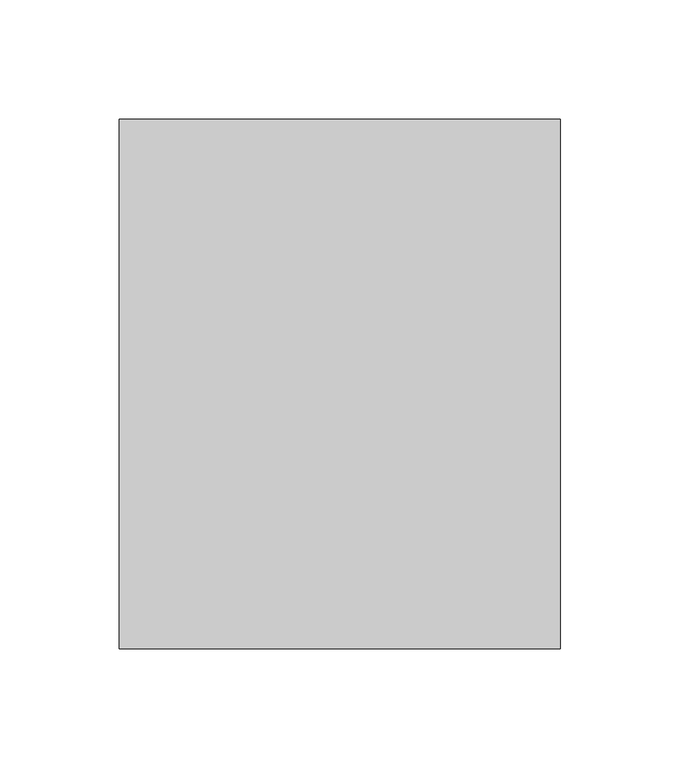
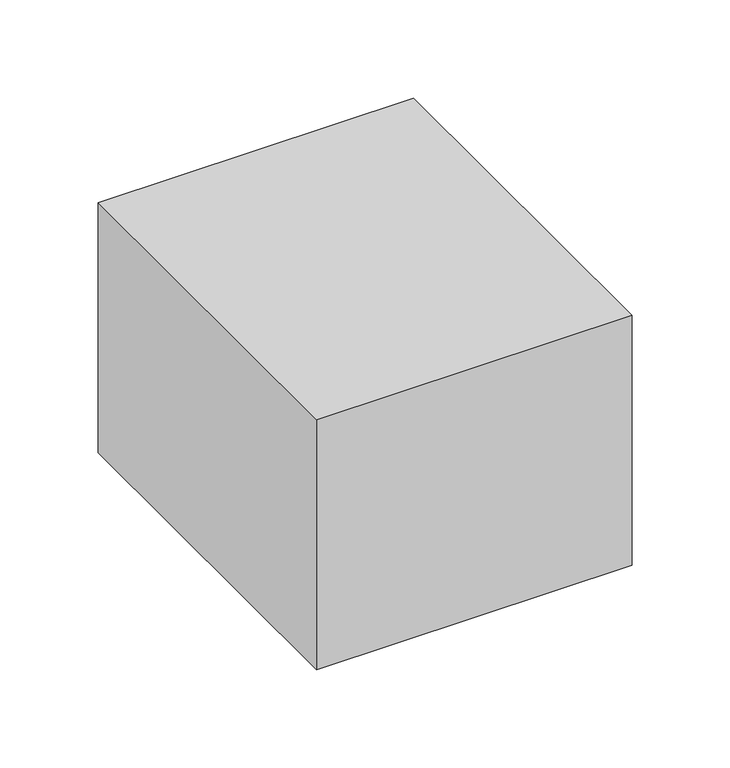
"""IFC4 building model written with IfcOpenShell, lengths in millimetres: light fixture geometry,  213 :  212093."""

import ifcopenshell
import ifcopenshell.guid

model = None  # the IFC model being written
_history = None  # IfcOwnerHistory: only IFC2X3 demands one
_inside = {}  # id of a spatial element -> (the spatial element, [elements in it])
_under = {}  # id of a project, library or spatial element -> (it, [spatial elements below it])
_declared = {}  # id of a project -> (the project, [libraries it declares])
_typed = {}  # id of a type object -> (the type object, [elements of that type])
_made_of = {}  # id of a material, layer set ... -> (it, [elements and type objects made of it])


def new_model(schema):
    """Start an empty IFC model of exactly this schema.

    Asked for "IFC4X3", IfcOpenShell would pick the latest addendum, in which some entities
    have other attributes; the version numbers below select the first issue.
    IFC2X3 requires an IfcOwnerHistory on every rooted entity: one is made here for all.
    """
    global model, _history
    if schema == "IFC4X3":
        model = ifcopenshell.file(schema_version=(4, 3, 0, 0))
    else:
        model = ifcopenshell.file(schema=schema)
    _inside.clear()
    _under.clear()
    _declared.clear()
    _typed.clear()
    _made_of.clear()
    _history = None
    if model.schema == "IFC2X3":
        org = make("IfcOrganization", Name="unknown")
        user = make(
            "IfcPersonAndOrganization",
            ThePerson=make("IfcPerson", FamilyName="unknown"),
            TheOrganization=org,
        )
        app = make(
            "IfcApplication",
            ApplicationDeveloper=org,
            Version="unknown",
            ApplicationFullName="unknown",
            ApplicationIdentifier="unknown",
        )
        _history = make(
            "IfcOwnerHistory",
            OwningUser=user,
            OwningApplication=app,
            ChangeAction="ADDED",
            CreationDate=0,
        )
    return model


def make(cls, **values):
    """One entity of the class cls with the attributes given. An attribute that is None is left unset."""
    return model.create_entity(
        cls, **{name: value for name, value in values.items() if value is not None}
    )


def rooted(cls, **values):
    """An entity with a GlobalId (a new one), such as an element, a storey or a relation."""
    return make(cls, GlobalId=ifcopenshell.guid.new(), OwnerHistory=_history, **values)


def si_unit(unit_type, name, prefix=None):
    """IfcSIUnit, for example si_unit("LENGTHUNIT", "METRE", prefix="MILLI")."""
    return make("IfcSIUnit", UnitType=unit_type, Prefix=prefix, Name=name)


def assignment(units):
    """IfcUnitAssignment: the units of a project."""
    return None if units is None else make("IfcUnitAssignment", Units=units)


def point(xyz):
    """IfcCartesianPoint."""
    return None if xyz is None else make("IfcCartesianPoint", Coordinates=xyz)


def direction(xyz):
    """IfcDirection."""
    return None if xyz is None else make("IfcDirection", DirectionRatios=xyz)


def frame(location, z_axis=None, x_axis=None):
    """IfcAxis2Placement3D, a coordinate frame: its origin and axes. An axis left out is left unset."""
    return make(
        "IfcAxis2Placement3D",
        Location=point(location),
        Axis=direction(z_axis),
        RefDirection=direction(x_axis),
    )


def origin():
    """The frame at (0, 0, 0) with its axes left unset."""
    return frame((0.0, 0.0, 0.0))


def place(relative_to, where):
    """IfcLocalPlacement: puts the frame where relative to a parent placement (None: the world)."""
    return make(
        "IfcLocalPlacement", PlacementRelTo=relative_to, RelativePlacement=where
    )


def context(
    kind, dimensions, precision=None, world=None, true_north=None, identifier=None
):
    """IfcGeometricRepresentationContext, for example the 3D "Model" context."""
    return make(
        "IfcGeometricRepresentationContext",
        ContextIdentifier=identifier,
        ContextType=kind,
        CoordinateSpaceDimension=dimensions,
        Precision=precision,
        WorldCoordinateSystem=world,
        TrueNorth=true_north,
    )


def project(units=None, contexts=None):
    """IfcProject with its units and contexts."""
    return rooted(
        "IfcProject",
        Name="project",
        RepresentationContexts=contexts,
        UnitsInContext=assignment(units),
    )


def spatial(cls, under=None, at=None, **own):
    """A site, building, storey or space (cls), placed at a placement, below another one or the project."""
    s = rooted(cls, ObjectPlacement=at, **own)
    if under is not None:
        _under.setdefault(under.id(), (under, []))[1].append(s)
    return s


def polyline(points):
    """IfcPolyline through the points."""
    return make("IfcPolyline", Points=[point(p) for p in points])


def outline(outer, holes=None, kind="AREA"):
    """IfcArbitraryClosedProfileDef: a profile drawn as a closed curve; with holes, ...WithVoids."""
    if holes is None:
        return make("IfcArbitraryClosedProfileDef", ProfileType=kind, OuterCurve=outer)
    return make(
        "IfcArbitraryProfileDefWithVoids",
        ProfileType=kind,
        OuterCurve=outer,
        InnerCurves=holes,
    )


def extrude(swept, where, along, depth):
    """IfcExtrudedAreaSolid: the profile swept, set in the frame where, extruded along a direction by depth."""
    return make(
        "IfcExtrudedAreaSolid",
        SweptArea=swept,
        Position=where,
        ExtrudedDirection=direction(along),
        Depth=depth,
    )


def shape(context_of_items, identifier, shape_type, items):
    """IfcShapeRepresentation: the items that make up one representation, for example the "Body"."""
    return make(
        "IfcShapeRepresentation",
        ContextOfItems=context_of_items,
        RepresentationIdentifier=identifier,
        RepresentationType=shape_type,
        Items=items,
    )


def source(mapping_origin, context_of_items, identifier, shape_type, items):
    """IfcRepresentationMap: a shape defined once, which mapped items show again and again."""
    return make(
        "IfcRepresentationMap",
        MappingOrigin=mapping_origin,
        MappedRepresentation=shape(context_of_items, identifier, shape_type, items),
    )


def transform(
    local_origin,
    x_axis=None,
    y_axis=None,
    z_axis=None,
    scale=None,
    scale2=None,
    scale3=None,
    uniform=True,
):
    """IfcCartesianTransformationOperator3D, or its non-uniform kind. x_axis, y_axis, z_axis: its Axis1, 2, 3."""
    if uniform:
        return make(
            "IfcCartesianTransformationOperator3D",
            Axis1=direction(x_axis),
            Axis2=direction(y_axis),
            LocalOrigin=point(local_origin),
            Scale=scale,
            Axis3=direction(z_axis),
        )
    return make(
        "IfcCartesianTransformationOperator3DnonUniform",
        Axis1=direction(x_axis),
        Axis2=direction(y_axis),
        LocalOrigin=point(local_origin),
        Scale=scale,
        Axis3=direction(z_axis),
        Scale2=scale2,
        Scale3=scale3,
    )


def mapped(mapping_source, mapping_target):
    """IfcMappedItem: shows the shape of a source again, moved by a transform."""
    return make(
        "IfcMappedItem", MappingSource=mapping_source, MappingTarget=mapping_target
    )


def made_of(thing, what):
    """Note that an element or type object is made of a material, layer set ...; save() writes the relation."""
    if what is not None:
        _made_of.setdefault(what.id(), (what, []))[1].append(thing)
    return thing


def element(
    cls,
    number,
    at=None,
    inside=None,
    cuts=None,
    type_object=None,
    material=None,
    context=None,
    identifier="Body",
    shape_type=None,
    held_by="IfcProductDefinitionShape",
    body=None,
    shapes=None,
    **own,
):
    """One element of the class cls, such as IfcWall. Its Tag is "e" and its number.

    at: its placement. inside: the storey or other place that contains it. cuts: it is an
    opening in that element (IfcRelVoidsElement). A single representation is given by context,
    identifier, shape_type and body (its items); several are given by shapes. held_by: the class
    of the entity that holds the representations. save() writes the other relations.
    """
    e = rooted(cls, Tag="e%d" % number, ObjectPlacement=at, **own)
    if body is not None:
        shapes = [shape(context, identifier, shape_type, body)]
    if shapes is not None:
        e.Representation = make(held_by, Representations=shapes)
    if inside is not None:
        _inside.setdefault(inside.id(), (inside, []))[1].append(e)
    if cuts is not None:
        rooted(
            "IfcRelVoidsElement", RelatingBuildingElement=cuts, RelatedOpeningElement=e
        )
    if type_object is not None:
        _typed.setdefault(type_object.id(), (type_object, []))[1].append(e)
    return made_of(e, material)


def aggregate(whole, parts):
    """IfcRelAggregates: a whole, such as a stair, and the parts it consists of."""
    return rooted("IfcRelAggregates", RelatingObject=whole, RelatedObjects=parts)


def save(model, path):
    """Write the relations noted so far, then the file.

    IfcRelAggregates (storeys below a building ...), IfcRelContainedInSpatialStructure (elements
    in a storey), IfcRelDefinesByType, IfcRelAssociatesMaterial and IfcRelDeclares: one each for
    every whole, place, type object, material and project.
    """
    for whole, parts in _under.values():
        aggregate(whole, parts)
    for where, things in _inside.values():
        rooted(
            "IfcRelContainedInSpatialStructure",
            RelatedElements=things,
            RelatingStructure=where,
        )
    for kind, things in _typed.values():
        rooted("IfcRelDefinesByType", RelatedObjects=things, RelatingType=kind)
    for what, things in _made_of.values():
        rooted("IfcRelAssociatesMaterial", RelatedObjects=things, RelatingMaterial=what)
    for by, libraries in _declared.values():
        rooted("IfcRelDeclares", RelatingContext=by, RelatedDefinitions=libraries)
    model.write(path)


def light_fixture_9450ebba(model_context):
    return source(origin(), model_context, "Body", "SweptSolid", [
        extrude(outline(polyline([(2536.7346511, 12890.0121745), (2721.7346511, 12890.0121745), (2721.7346511, 12668.0121745), (2536.7346511, 12668.0121745), (2536.7346511, 12890.0121745)])), frame((0.0, 0.0, 1375.0), z_axis=(0.0, 0.0, 1.0), x_axis=(1.0, 0.0, 0.0)), (0.0, 0.0, 1.0), 155.0),
    ])


if __name__ == "__main__":
    model = new_model("IFC4")
    model_context = context("Model", 3, world=origin())
    ifc_project = project(units=[si_unit("LENGTHUNIT", "METRE", prefix="MILLI")], contexts=[model_context])
    site = spatial("IfcSite", under=ifc_project)
    building = spatial("IfcBuilding", under=site)
    placement = place(None, origin())
    light_fixture_shape = light_fixture_9450ebba(model_context)
    element("IfcLightFixture", 1, ObjectType=" 213 :  212093", at=placement, inside=building, context=model_context, shape_type="MappedRepresentation", body=[
        mapped(light_fixture_shape, transform((0.0, 0.0, 0.0), x_axis=(1.0, 0.0, 0.0), y_axis=(0.0, 1.0, 0.0), z_axis=(0.0, 0.0, 1.0))),
    ])
    save(model, "model.ifc")
